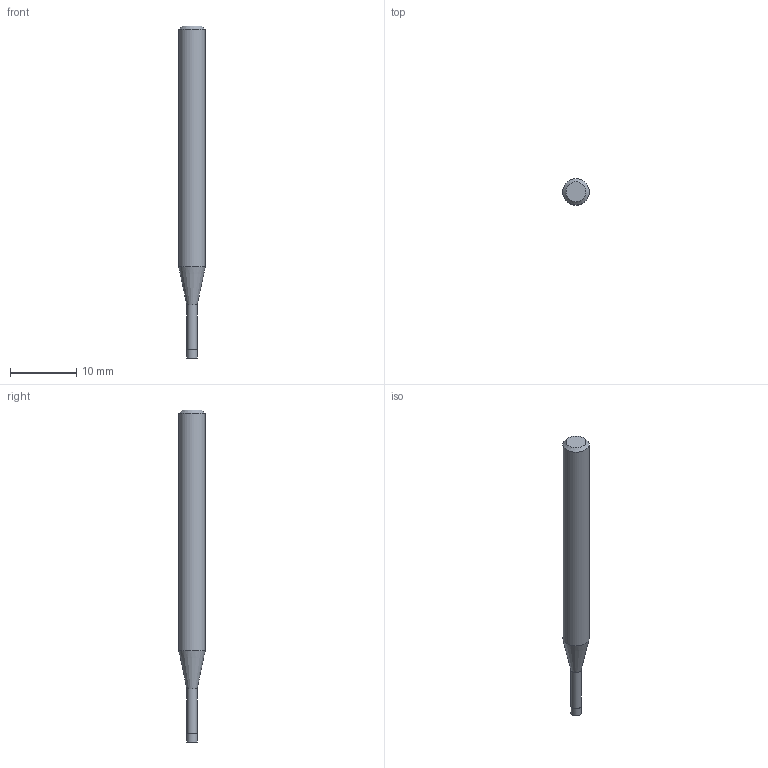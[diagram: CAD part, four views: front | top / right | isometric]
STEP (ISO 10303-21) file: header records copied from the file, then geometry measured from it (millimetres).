
FILE_DESCRIPTION((''),'2;1');
FILE_NAME('C:\Users\nsx150\AppData\Local\Temp\Mastercam 2021\RJ5U8K7RMU\TEMP.step','2021-04-21T16:41:51',(''),(''),'STEP Write','Mastercam 2021 ... CNC Software, Inc.','');
FILE_SCHEMA(('AUTOMOTIVE_DESIGN'));
Length unit declared in the file: millimetre
Products named in the file (1): None
Bounding box: 4 x 4 x 50 mm (x, y, z)
Volume: 506.3 mm3; surface area: 560.4 mm2
Topology: 2 solids, 2 shells, 9 faces, 12 edges, 7 vertices
Faces by surface type: plane 4, cylinder 3, cone 2
Full cylindrical faces by diameter (mm): 1.55 x1, 1.6 x1, 4 x1
Entity records: 211 total; most frequent: DIRECTION 36, CARTESIAN_POINT 25, AXIS2_PLACEMENT_3D 18, ORIENTED_EDGE 14, EDGE_LOOP 14, STYLED_ITEM 12, ADVANCED_FACE 9, FACE_BOUND 8
